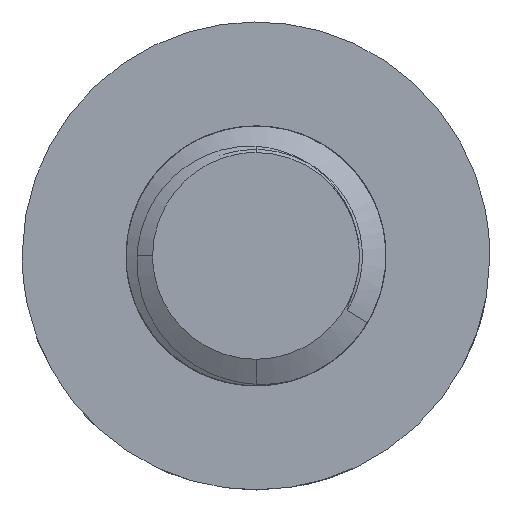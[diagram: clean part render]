
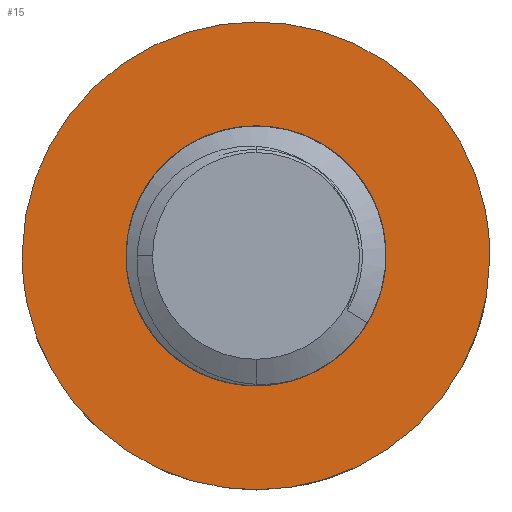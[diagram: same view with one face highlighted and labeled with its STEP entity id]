
A CAD part, front view. The second image highlights one B-rep face of the part: STEP entity #15.
In plain terms, the highlighted planar face has unit normal (0, -1, 0).
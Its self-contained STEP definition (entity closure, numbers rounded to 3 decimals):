
#15=ADVANCED_FACE('',(#110,#109),#1592,.T.);
#109=FACE_BOUND('',#205,.T.);
#110=FACE_OUTER_BOUND('',#204,.T.);
#204=EDGE_LOOP('',(#299,#300));
#205=EDGE_LOOP('',(#301,#302));
#299=ORIENTED_EDGE('',*,*,#829,.F.);
#300=ORIENTED_EDGE('',*,*,#819,.F.);
#301=ORIENTED_EDGE('',*,*,#820,.F.);
#302=ORIENTED_EDGE('',*,*,#821,.F.);
#819=EDGE_CURVE('',#1339,#1340,#1264,.T.);
#820=EDGE_CURVE('',#1341,#1342,#1265,.T.);
#821=EDGE_CURVE('',#1342,#1341,#1266,.T.);
#829=EDGE_CURVE('',#1340,#1339,#1268,.T.);
#1264=(
BOUNDED_CURVE()
B_SPLINE_CURVE(2,(#8366,#8367,#8368,#8369,#8370),.UNSPECIFIED.,.F.,.F.)
B_SPLINE_CURVE_WITH_KNOTS((3,2,3),(-4.051,-3.038,
-2.025),.UNSPECIFIED.)
CURVE()
GEOMETRIC_REPRESENTATION_ITEM()
RATIONAL_B_SPLINE_CURVE((1.,0.707,1.,0.707,1.))
REPRESENTATION_ITEM('')
);
#1265=(
BOUNDED_CURVE()
B_SPLINE_CURVE(2,(#8371,#8372,#8373,#8374,#8375),.UNSPECIFIED.,.F.,.F.)
B_SPLINE_CURVE_WITH_KNOTS((3,2,3),(0.,2.356,4.712),
 .UNSPECIFIED.)
CURVE()
GEOMETRIC_REPRESENTATION_ITEM()
RATIONAL_B_SPLINE_CURVE((1.,0.707,1.,0.707,1.))
REPRESENTATION_ITEM('')
);
#1266=(
BOUNDED_CURVE()
B_SPLINE_CURVE(2,(#8376,#8377,#8378,#8379,#8380),.UNSPECIFIED.,.F.,.F.)
B_SPLINE_CURVE_WITH_KNOTS((3,2,3),(4.712,7.069,9.425),
 .UNSPECIFIED.)
CURVE()
GEOMETRIC_REPRESENTATION_ITEM()
RATIONAL_B_SPLINE_CURVE((1.,0.707,1.,0.707,1.))
REPRESENTATION_ITEM('')
);
#1268=(
BOUNDED_CURVE()
B_SPLINE_CURVE(2,(#8433,#8434,#8435,#8436,#8437),.UNSPECIFIED.,.F.,.F.)
B_SPLINE_CURVE_WITH_KNOTS((3,2,3),(-2.025,-1.013,
0.),.UNSPECIFIED.)
CURVE()
GEOMETRIC_REPRESENTATION_ITEM()
RATIONAL_B_SPLINE_CURVE((1.,0.707,1.,0.707,1.))
REPRESENTATION_ITEM('')
);
#1339=VERTEX_POINT('',#8197);
#1340=VERTEX_POINT('',#8198);
#1341=VERTEX_POINT('',#8199);
#1342=VERTEX_POINT('',#8200);
#1592=PLANE('',#1622);
#1622=AXIS2_PLACEMENT_3D('',#1648,#1635,$);
#1635=DIRECTION('',(0.,-1.,0.));
#1648=CARTESIAN_POINT('',(166.577,431.398,410.396));
#8197=CARTESIAN_POINT('',(172.529,431.398,407.144));
#8198=CARTESIAN_POINT('',(167.129,431.398,407.144));
#8199=CARTESIAN_POINT('',(168.329,431.398,407.144));
#8200=CARTESIAN_POINT('',(171.329,431.398,407.144));
#8366=CARTESIAN_POINT('',(172.529,431.398,407.144));
#8367=CARTESIAN_POINT('',(172.529,431.398,404.444));
#8368=CARTESIAN_POINT('',(169.829,431.398,404.444));
#8369=CARTESIAN_POINT('',(167.129,431.398,404.444));
#8370=CARTESIAN_POINT('',(167.129,431.398,407.144));
#8371=CARTESIAN_POINT('',(168.329,431.398,407.144));
#8372=CARTESIAN_POINT('',(168.329,431.398,405.644));
#8373=CARTESIAN_POINT('',(169.829,431.398,405.644));
#8374=CARTESIAN_POINT('',(171.329,431.398,405.644));
#8375=CARTESIAN_POINT('',(171.329,431.398,407.144));
#8376=CARTESIAN_POINT('',(171.329,431.398,407.144));
#8377=CARTESIAN_POINT('',(171.329,431.398,408.644));
#8378=CARTESIAN_POINT('',(169.829,431.398,408.644));
#8379=CARTESIAN_POINT('',(168.329,431.398,408.644));
#8380=CARTESIAN_POINT('',(168.329,431.398,407.144));
#8433=CARTESIAN_POINT('',(167.129,431.398,407.144));
#8434=CARTESIAN_POINT('',(167.129,431.398,409.844));
#8435=CARTESIAN_POINT('',(169.829,431.398,409.844));
#8436=CARTESIAN_POINT('',(172.529,431.398,409.844));
#8437=CARTESIAN_POINT('',(172.529,431.398,407.144));
